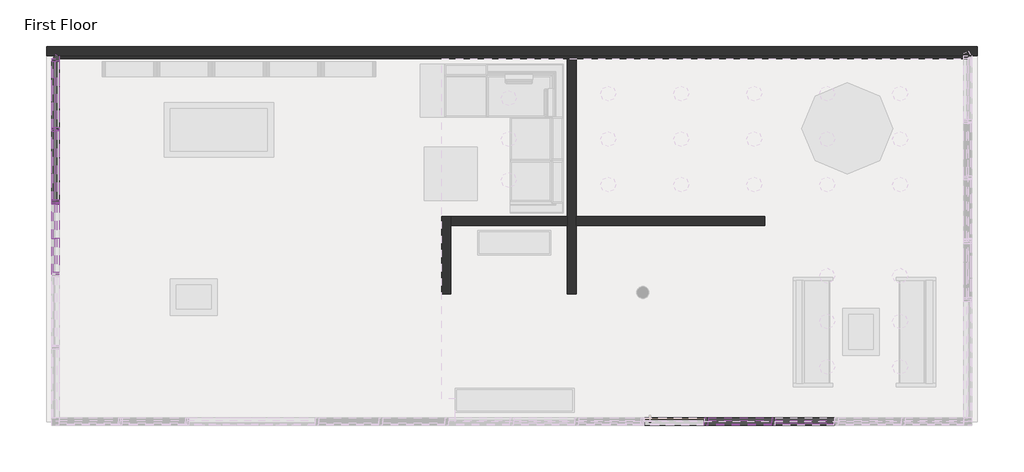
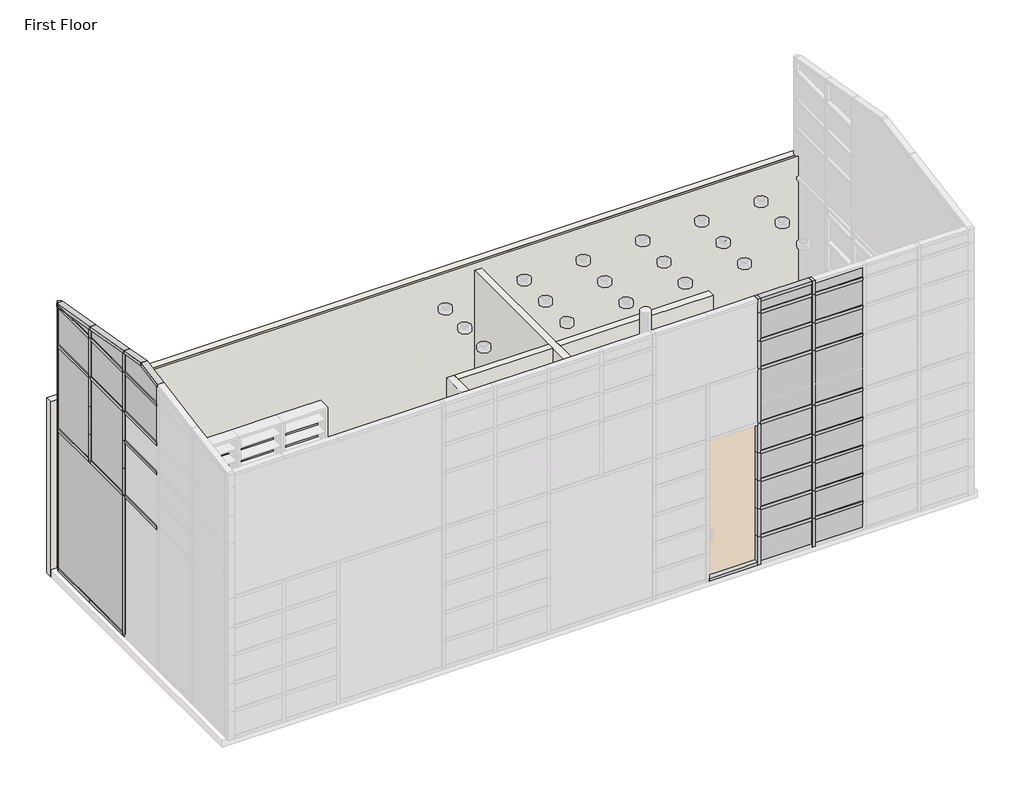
# One storey, part 3 of 5: 68 members, 27 plates, 6 walls.
"""IFC4 building model written with IfcOpenShell, lengths in millimetres."""

from ifc_helpers import new_model, si_unit, origin, origin_with_axes, place, context, project, spatial, polyline, outline, extrude, faceted_brep, transform, mapped, element, save
from components import member_48a55aaf, member_8fdd89c4, member_18bfbf2a, member_c4478095, member_a62d25e7, rectangular_mullion_rectangular_mullion_1_6e77e263, rectangular_mullion_rectangular_mullion_1_75d1e245, rectangular_mullion_rectangular_mullion_1_51170729, rectangular_mullion_rectangular_mullion_1_b3f2e294, rectangular_mullion_rectangular_mullion_1_650d2c5f, rectangular_mullion_rectangular_mullion_1_bb6e01eb, rectangular_mullion_rectangular_mullion_1_29433100, rectangular_mullion_rectangular_mullion_1_0dc72f1f, rectangular_mullion_rectangular_mullion_1_691106c5, rectangular_mullion_rectangular_mullion_1_10e992ee, rectangular_mullion_rectangular_mullion_1_b03e071e, rectangular_mullion_rectangular_mullion_1_7db1855a, rectangular_mullion_rectangular_mullion_1_13227b79, rectangular_mullion_rectangular_mullion_1_b8b32124, rectangular_mullion_rectangular_mullion_1_b5e65c95, rectangular_mullion_rectangular_mullion_1_8f8fed29, rectangular_mullion_rectangular_mullion_1_0f879c9f, rectangular_mullion_rectangular_mullion_1_6a1902be, rectangular_mullion_rectangular_mullion_1_d740f499, rectangular_mullion_rectangular_mullion_1_dd701887, rectangular_mullion_rectangular_mullion_1_58506ade, system_panel_glazed_2b7ce968, system_panel_glazed_7c8764a7, system_panel_glazed_1281ff27, system_panel_glazed_f91b51b3, system_panel_glazed_79ec670e, system_panel_glazed_17ceb642, system_panel_glazed_294cdc5a, system_panel_solid_grey_79d213d7, system_panel_solid_grey_1537fd35, system_panel_solid_grey_76bbd327, system_panel_solid_grey_9eb41032, system_panel_solid_grey_5948a24a, system_panel_solid_grey_b12ea01a, system_panel_solid_white_ea00ccfe, system_panel_solid_white_e6f20d80, system_panel_solid_white_33da1543, system_panel_solid_white_a08d68a6, system_panel_solid_white_88771e70, system_panel_solid_white_e904192f

model = new_model("IFC4")

# Units and contexts
model_context = context("Model", 3, world=origin())
ifc_project = project(units=[si_unit("LENGTHUNIT", "METRE", prefix="MILLI")], contexts=[model_context])

# Site, building, storey
site = spatial("IfcSite", under=ifc_project)
building = spatial("IfcBuilding", under=site)
storey = spatial("IfcBuildingStorey", under=building, Name="First Floor", Elevation=0.0)

# Members
placement = place(None, origin())
member_shape = member_48a55aaf(model_context)
element("IfcMember", 1, ObjectType="Quad Corner Mullion : 3\" x 1 1/2\" Quad Mullion", at=placement, inside=storey, context=model_context, shape_type="MappedRepresentation", body=[
    mapped(member_shape, transform((-10676.9717693, 12145.5400612, 0.0), x_axis=(0.0, 1.0, 0.0), y_axis=(1.0, 0.0, 0.0), z_axis=(0.0, 0.0, -1.0))),
])
member_2_shape = member_8fdd89c4(model_context)
element("IfcMember", 2, ObjectType="Quad Corner Mullion : 3\" x 1 1/2\" Quad Mullion", at=placement, inside=storey, context=model_context, shape_type="MappedRepresentation", body=[
    mapped(member_2_shape, transform((-10676.9717693, 12145.5400612, 4908.55), x_axis=(0.0, 1.0, 0.0), y_axis=(1.0, 0.0, 0.0), z_axis=(0.0, 0.0, -1.0))),
])
member_3_shape = member_18bfbf2a(model_context)
element("IfcMember", 3, ObjectType="Quad Corner Mullion : 3\" x 1 1/2\" Quad Mullion", at=placement, inside=storey, context=model_context, shape_type="MappedRepresentation", body=[
    mapped(member_3_shape, transform((-10676.9717693, 12145.5400612, 3079.75), x_axis=(0.0, 1.0, 0.0), y_axis=(1.0, 0.0, 0.0), z_axis=(0.0, 0.0, -1.0))),
])
member_4_shape = member_c4478095(model_context)
element("IfcMember", 4, ObjectType="Quad Corner Mullion : 3\" x 1 1/2\" Quad Mullion", at=placement, inside=storey, context=model_context, shape_type="MappedRepresentation", body=[
    mapped(member_4_shape, transform((-10676.9717693, 12145.5400612, 3657.6), x_axis=(0.0, 1.0, 0.0), y_axis=(1.0, 0.0, 0.0), z_axis=(0.0, 0.0, -1.0))),
])
member_5_shape = member_a62d25e7(model_context)
element("IfcMember", 5, ObjectType="Quad Corner Mullion : 3\" x 1 1/2\" Quad Mullion", at=placement, inside=storey, context=model_context, shape_type="MappedRepresentation", body=[
    mapped(member_5_shape, transform((-10676.9717693, 12145.5400612, 4267.2), x_axis=(0.0, 1.0, 0.0), y_axis=(1.0, 0.0, 0.0), z_axis=(0.0, 0.0, -1.0))),
])
rectangular_mullion_rectangular_mullion_1_shape = rectangular_mullion_rectangular_mullion_1_6e77e263(model_context)
element("IfcMember", 6, ObjectType="Rectangular Mullion : Rectangular Mullion 1", at=placement, inside=storey, context=model_context, shape_type="MappedRepresentation", body=[
    mapped(rectangular_mullion_rectangular_mullion_1_shape, transform((195.1353734, 6074.9400612, 0.0), x_axis=(-1.0, 0.0, 0.0), y_axis=(0.0, 1.0, 0.0), z_axis=(0.0, 0.0, -1.0))),
])
element("IfcMember", 7, ObjectType="Rectangular Mullion : Rectangular Mullion 1", at=placement, inside=storey, context=model_context, shape_type="MappedRepresentation", body=[
    mapped(rectangular_mullion_rectangular_mullion_1_shape, transform((1315.4568021, 6074.9400612, 0.0), x_axis=(-1.0, 0.0, 0.0), y_axis=(0.0, 1.0, 0.0), z_axis=(0.0, 0.0, -1.0))),
])
element("IfcMember", 8, ObjectType="Rectangular Mullion : Rectangular Mullion 1", at=placement, inside=storey, context=model_context, shape_type="MappedRepresentation", body=[
    mapped(rectangular_mullion_rectangular_mullion_1_shape, transform((1315.4568021, 6074.9400612, 1219.2), x_axis=(-1.0, 0.0, 0.0), y_axis=(0.0, 1.0, 0.0), z_axis=(0.0, 0.0, -1.0))),
])
element("IfcMember", 9, ObjectType="Rectangular Mullion : Rectangular Mullion 1", at=placement, inside=storey, context=model_context, shape_type="MappedRepresentation", body=[
    mapped(rectangular_mullion_rectangular_mullion_1_shape, transform((195.1353734, 6074.9400612, 1219.2), x_axis=(-1.0, 0.0, 0.0), y_axis=(0.0, 1.0, 0.0), z_axis=(0.0, 0.0, -1.0))),
])
element("IfcMember", 10, ObjectType="Rectangular Mullion : Rectangular Mullion 1", at=placement, inside=storey, context=model_context, shape_type="MappedRepresentation", body=[
    mapped(rectangular_mullion_rectangular_mullion_1_shape, transform((1315.4568021, 6074.9400612, 1828.8), x_axis=(-1.0, 0.0, 0.0), y_axis=(0.0, 1.0, 0.0), z_axis=(0.0, 0.0, -1.0))),
])
element("IfcMember", 11, ObjectType="Rectangular Mullion : Rectangular Mullion 1", at=placement, inside=storey, context=model_context, shape_type="MappedRepresentation", body=[
    mapped(rectangular_mullion_rectangular_mullion_1_shape, transform((195.1353734, 6074.9400612, 1828.8), x_axis=(-1.0, 0.0, 0.0), y_axis=(0.0, 1.0, 0.0), z_axis=(0.0, 0.0, -1.0))),
])
element("IfcMember", 12, ObjectType="Rectangular Mullion : Rectangular Mullion 1", at=placement, inside=storey, context=model_context, shape_type="MappedRepresentation", body=[
    mapped(rectangular_mullion_rectangular_mullion_1_shape, transform((1315.4568021, 6074.9400612, 609.6), x_axis=(-1.0, 0.0, 0.0), y_axis=(0.0, 1.0, 0.0), z_axis=(0.0, 0.0, -1.0))),
])
element("IfcMember", 13, ObjectType="Rectangular Mullion : Rectangular Mullion 1", at=placement, inside=storey, context=model_context, shape_type="MappedRepresentation", body=[
    mapped(rectangular_mullion_rectangular_mullion_1_shape, transform((195.1353734, 6074.9400612, 609.6), x_axis=(-1.0, 0.0, 0.0), y_axis=(0.0, 1.0, 0.0), z_axis=(0.0, 0.0, -1.0))),
])
element("IfcMember", 14, ObjectType="Rectangular Mullion : Rectangular Mullion 1", at=placement, inside=storey, context=model_context, shape_type="MappedRepresentation", body=[
    mapped(rectangular_mullion_rectangular_mullion_1_shape, transform((1315.4568021, 6074.9400612, 4876.8), x_axis=(-1.0, 0.0, 0.0), y_axis=(0.0, 1.0, 0.0), z_axis=(0.0, 0.0, -1.0))),
])
element("IfcMember", 15, ObjectType="Rectangular Mullion : Rectangular Mullion 1", at=placement, inside=storey, context=model_context, shape_type="MappedRepresentation", body=[
    mapped(rectangular_mullion_rectangular_mullion_1_shape, transform((195.1353734, 6074.9400612, 4876.8), x_axis=(-1.0, 0.0, 0.0), y_axis=(0.0, 1.0, 0.0), z_axis=(0.0, 0.0, -1.0))),
])
element("IfcMember", 16, ObjectType="Rectangular Mullion : Rectangular Mullion 1", at=placement, inside=storey, context=model_context, shape_type="MappedRepresentation", body=[
    mapped(rectangular_mullion_rectangular_mullion_1_shape, transform((1315.4568021, 6074.9400612, 4267.2), x_axis=(-1.0, 0.0, 0.0), y_axis=(0.0, 1.0, 0.0), z_axis=(0.0, 0.0, -1.0))),
])
element("IfcMember", 17, ObjectType="Rectangular Mullion : Rectangular Mullion 1", at=placement, inside=storey, context=model_context, shape_type="MappedRepresentation", body=[
    mapped(rectangular_mullion_rectangular_mullion_1_shape, transform((195.1353734, 6074.9400612, 4267.2), x_axis=(-1.0, 0.0, 0.0), y_axis=(0.0, 1.0, 0.0), z_axis=(0.0, 0.0, -1.0))),
])
rectangular_mullion_rectangular_mullion_1_2_shape = rectangular_mullion_rectangular_mullion_1_75d1e245(model_context)
element("IfcMember", 18, ObjectType="Rectangular Mullion : Rectangular Mullion 1", at=placement, inside=storey, context=model_context, shape_type="MappedRepresentation", body=[
    mapped(rectangular_mullion_rectangular_mullion_1_2_shape, transform((1315.4568021, 6074.9400612, 5486.4), x_axis=(-1.0, 0.0, 0.0), y_axis=(0.0, 1.0, 0.0), z_axis=(0.0, 0.0, -1.0))),
])
element("IfcMember", 19, ObjectType="Rectangular Mullion : Rectangular Mullion 1", at=placement, inside=storey, context=model_context, shape_type="MappedRepresentation", body=[
    mapped(rectangular_mullion_rectangular_mullion_1_2_shape, transform((195.1353734, 6074.9400612, 5486.4), x_axis=(-1.0, 0.0, 0.0), y_axis=(0.0, 1.0, 0.0), z_axis=(0.0, 0.0, -1.0))),
])
rectangular_mullion_rectangular_mullion_1_3_shape = rectangular_mullion_rectangular_mullion_1_51170729(model_context)
element("IfcMember", 20, ObjectType="Rectangular Mullion : Rectangular Mullion 1", at=placement, inside=storey, context=model_context, shape_type="MappedRepresentation", body=[
    mapped(rectangular_mullion_rectangular_mullion_1_3_shape, transform((1315.4568021, 6074.9400612, 2438.4), x_axis=(-1.0, 0.0, 0.0), y_axis=(0.0, 1.0, 0.0), z_axis=(0.0, 0.0, -1.0))),
])
element("IfcMember", 21, ObjectType="Rectangular Mullion : Rectangular Mullion 1", at=placement, inside=storey, context=model_context, shape_type="MappedRepresentation", body=[
    mapped(rectangular_mullion_rectangular_mullion_1_3_shape, transform((195.1353734, 6074.9400612, 2438.4), x_axis=(-1.0, 0.0, 0.0), y_axis=(0.0, 1.0, 0.0), z_axis=(0.0, 0.0, -1.0))),
])
element("IfcMember", 22, ObjectType="Rectangular Mullion : Rectangular Mullion 1", at=placement, inside=storey, context=model_context, shape_type="MappedRepresentation", body=[
    mapped(rectangular_mullion_rectangular_mullion_1_3_shape, transform((-10676.9717693, 9749.0500611, 4267.2), x_axis=(0.0, 1.0, 0.0), y_axis=(1.0, 0.0, 0.0), z_axis=(0.0, 0.0, -1.0))),
])
rectangular_mullion_rectangular_mullion_1_4_shape = rectangular_mullion_rectangular_mullion_1_b3f2e294(model_context)
element("IfcMember", 23, ObjectType="Rectangular Mullion : Rectangular Mullion 1", at=placement, inside=storey, context=model_context, shape_type="MappedRepresentation", body=[
    mapped(rectangular_mullion_rectangular_mullion_1_4_shape, transform((1315.4568021, 6074.9400612, 3079.75), x_axis=(-1.0, 0.0, 0.0), y_axis=(0.0, 1.0, 0.0), z_axis=(0.0, 0.0, -1.0))),
])
element("IfcMember", 24, ObjectType="Rectangular Mullion : Rectangular Mullion 1", at=placement, inside=storey, context=model_context, shape_type="MappedRepresentation", body=[
    mapped(rectangular_mullion_rectangular_mullion_1_4_shape, transform((195.1353734, 6074.9400612, 3079.75), x_axis=(-1.0, 0.0, 0.0), y_axis=(0.0, 1.0, 0.0), z_axis=(0.0, 0.0, -1.0))),
])
rectangular_mullion_rectangular_mullion_1_5_shape = rectangular_mullion_rectangular_mullion_1_650d2c5f(model_context)
element("IfcMember", 25, ObjectType="Rectangular Mullion : Rectangular Mullion 1", at=placement, inside=storey, context=model_context, shape_type="MappedRepresentation", body=[
    mapped(rectangular_mullion_rectangular_mullion_1_5_shape, transform((1347.2068021, 6074.9400612, 3079.75), x_axis=(0.0, 0.0, 1.0), y_axis=(0.0, 1.0, 0.0), z_axis=(-1.0, 0.0, 0.0))),
])
element("IfcMember", 26, ObjectType="Rectangular Mullion : Rectangular Mullion 1", at=placement, inside=storey, context=model_context, shape_type="MappedRepresentation", body=[
    mapped(rectangular_mullion_rectangular_mullion_1_5_shape, transform((1347.2068021, 6074.9400612, 2438.4), x_axis=(0.0, 0.0, 1.0), y_axis=(0.0, 1.0, 0.0), z_axis=(-1.0, 0.0, 0.0))),
])
element("IfcMember", 27, ObjectType="Rectangular Mullion : Rectangular Mullion 1", at=placement, inside=storey, context=model_context, shape_type="MappedRepresentation", body=[
    mapped(rectangular_mullion_rectangular_mullion_1_5_shape, transform((1347.2068021, 6074.9400612, 1219.2), x_axis=(0.0, 0.0, 1.0), y_axis=(0.0, 1.0, 0.0), z_axis=(-1.0, 0.0, 0.0))),
])
element("IfcMember", 28, ObjectType="Rectangular Mullion : Rectangular Mullion 1", at=placement, inside=storey, context=model_context, shape_type="MappedRepresentation", body=[
    mapped(rectangular_mullion_rectangular_mullion_1_5_shape, transform((1347.2068021, 6074.9400612, 1828.8), x_axis=(0.0, 0.0, 1.0), y_axis=(0.0, 1.0, 0.0), z_axis=(-1.0, 0.0, 0.0))),
])
element("IfcMember", 29, ObjectType="Rectangular Mullion : Rectangular Mullion 1", at=placement, inside=storey, context=model_context, shape_type="MappedRepresentation", body=[
    mapped(rectangular_mullion_rectangular_mullion_1_5_shape, transform((1347.2068021, 6074.9400612, 609.6), x_axis=(0.0, 0.0, 1.0), y_axis=(0.0, 1.0, 0.0), z_axis=(-1.0, 0.0, 0.0))),
])
element("IfcMember", 30, ObjectType="Rectangular Mullion : Rectangular Mullion 1", at=placement, inside=storey, context=model_context, shape_type="MappedRepresentation", body=[
    mapped(rectangular_mullion_rectangular_mullion_1_5_shape, transform((1347.2068021, 6074.9400612, 4876.8), x_axis=(0.0, 0.0, 1.0), y_axis=(0.0, 1.0, 0.0), z_axis=(-1.0, 0.0, 0.0))),
])
element("IfcMember", 31, ObjectType="Rectangular Mullion : Rectangular Mullion 1", at=placement, inside=storey, context=model_context, shape_type="MappedRepresentation", body=[
    mapped(rectangular_mullion_rectangular_mullion_1_5_shape, transform((1347.2068021, 6074.9400612, 5486.4), x_axis=(0.0, 0.0, 1.0), y_axis=(0.0, 1.0, 0.0), z_axis=(-1.0, 0.0, 0.0))),
])
element("IfcMember", 32, ObjectType="Rectangular Mullion : Rectangular Mullion 1", at=placement, inside=storey, context=model_context, shape_type="MappedRepresentation", body=[
    mapped(rectangular_mullion_rectangular_mullion_1_5_shape, transform((1347.2068021, 6074.9400612, 4267.2), x_axis=(0.0, 0.0, 1.0), y_axis=(0.0, 1.0, 0.0), z_axis=(-1.0, 0.0, 0.0))),
])
rectangular_mullion_rectangular_mullion_1_6_shape = rectangular_mullion_rectangular_mullion_1_bb6e01eb(model_context)
element("IfcMember", 33, ObjectType="Rectangular Mullion : Rectangular Mullion 1", at=placement, inside=storey, context=model_context, shape_type="MappedRepresentation", body=[
    mapped(rectangular_mullion_rectangular_mullion_1_6_shape, transform((226.8853734, 6074.9400612, 3079.75), x_axis=(0.0, 0.0, 1.0), y_axis=(0.0, 1.0, 0.0), z_axis=(-1.0, 0.0, 0.0))),
])
element("IfcMember", 34, ObjectType="Rectangular Mullion : Rectangular Mullion 1", at=placement, inside=storey, context=model_context, shape_type="MappedRepresentation", body=[
    mapped(rectangular_mullion_rectangular_mullion_1_6_shape, transform((226.8853734, 6074.9400612, 2438.4), x_axis=(0.0, 0.0, 1.0), y_axis=(0.0, 1.0, 0.0), z_axis=(-1.0, 0.0, 0.0))),
])
element("IfcMember", 35, ObjectType="Rectangular Mullion : Rectangular Mullion 1", at=placement, inside=storey, context=model_context, shape_type="MappedRepresentation", body=[
    mapped(rectangular_mullion_rectangular_mullion_1_6_shape, transform((226.8853734, 6074.9400612, 1219.2), x_axis=(0.0, 0.0, 1.0), y_axis=(0.0, 1.0, 0.0), z_axis=(-1.0, 0.0, 0.0))),
])
element("IfcMember", 36, ObjectType="Rectangular Mullion : Rectangular Mullion 1", at=placement, inside=storey, context=model_context, shape_type="MappedRepresentation", body=[
    mapped(rectangular_mullion_rectangular_mullion_1_6_shape, transform((226.8853734, 6074.9400612, 1828.8), x_axis=(0.0, 0.0, 1.0), y_axis=(0.0, 1.0, 0.0), z_axis=(-1.0, 0.0, 0.0))),
])
element("IfcMember", 37, ObjectType="Rectangular Mullion : Rectangular Mullion 1", at=placement, inside=storey, context=model_context, shape_type="MappedRepresentation", body=[
    mapped(rectangular_mullion_rectangular_mullion_1_6_shape, transform((226.8853734, 6074.9400612, 609.6), x_axis=(0.0, 0.0, 1.0), y_axis=(0.0, 1.0, 0.0), z_axis=(-1.0, 0.0, 0.0))),
])
element("IfcMember", 38, ObjectType="Rectangular Mullion : Rectangular Mullion 1", at=placement, inside=storey, context=model_context, shape_type="MappedRepresentation", body=[
    mapped(rectangular_mullion_rectangular_mullion_1_6_shape, transform((226.8853734, 6074.9400612, 4876.8), x_axis=(0.0, 0.0, 1.0), y_axis=(0.0, 1.0, 0.0), z_axis=(-1.0, 0.0, 0.0))),
])
element("IfcMember", 39, ObjectType="Rectangular Mullion : Rectangular Mullion 1", at=placement, inside=storey, context=model_context, shape_type="MappedRepresentation", body=[
    mapped(rectangular_mullion_rectangular_mullion_1_6_shape, transform((226.8853734, 6074.9400612, 5486.4), x_axis=(0.0, 0.0, 1.0), y_axis=(0.0, 1.0, 0.0), z_axis=(-1.0, 0.0, 0.0))),
])
element("IfcMember", 40, ObjectType="Rectangular Mullion : Rectangular Mullion 1", at=placement, inside=storey, context=model_context, shape_type="MappedRepresentation", body=[
    mapped(rectangular_mullion_rectangular_mullion_1_6_shape, transform((226.8853734, 6074.9400612, 4267.2), x_axis=(0.0, 0.0, 1.0), y_axis=(0.0, 1.0, 0.0), z_axis=(-1.0, 0.0, 0.0))),
])
rectangular_mullion_rectangular_mullion_1_7_shape = rectangular_mullion_rectangular_mullion_1_29433100(model_context)
element("IfcMember", 41, ObjectType="Rectangular Mullion : Rectangular Mullion 1", at=placement, inside=storey, context=model_context, shape_type="MappedRepresentation", body=[
    mapped(rectangular_mullion_rectangular_mullion_1_7_shape, transform((163.3853734, 6074.9400612, 0.0), x_axis=(0.0, 0.0, -1.0), y_axis=(0.0, 1.0, 0.0), z_axis=(1.0, 0.0, 0.0))),
])
rectangular_mullion_rectangular_mullion_1_8_shape = rectangular_mullion_rectangular_mullion_1_0dc72f1f(model_context)
element("IfcMember", 42, ObjectType="Rectangular Mullion : Rectangular Mullion 1", at=placement, inside=storey, context=model_context, shape_type="MappedRepresentation", body=[
    mapped(rectangular_mullion_rectangular_mullion_1_8_shape, transform((226.8853734, 6074.9400612, 5791.2), x_axis=(0.0, 0.0, 1.0), y_axis=(0.0, 1.0, 0.0), z_axis=(-1.0, 0.0, 0.0))),
])
rectangular_mullion_rectangular_mullion_1_9_shape = rectangular_mullion_rectangular_mullion_1_691106c5(model_context)
element("IfcMember", 43, ObjectType="Rectangular Mullion : Rectangular Mullion 1", at=placement, inside=storey, context=model_context, shape_type="MappedRepresentation", body=[
    mapped(rectangular_mullion_rectangular_mullion_1_9_shape, transform((-10676.9717693, 9717.3000611, 3079.75), x_axis=(0.0, 0.0, 1.0), y_axis=(1.0, 0.0, 0.0), z_axis=(0.0, 1.0, 0.0))),
])
element("IfcMember", 44, ObjectType="Rectangular Mullion : Rectangular Mullion 1", at=placement, inside=storey, context=model_context, shape_type="MappedRepresentation", body=[
    mapped(rectangular_mullion_rectangular_mullion_1_9_shape, transform((-10676.9717693, 10931.420061, 3079.75), x_axis=(0.0, 0.0, 1.0), y_axis=(1.0, 0.0, 0.0), z_axis=(0.0, 1.0, 0.0))),
])
element("IfcMember", 45, ObjectType="Rectangular Mullion : Rectangular Mullion 1", at=placement, inside=storey, context=model_context, shape_type="MappedRepresentation", body=[
    mapped(rectangular_mullion_rectangular_mullion_1_9_shape, transform((-10676.9717693, 9717.3000611, 4267.2), x_axis=(0.0, 0.0, 1.0), y_axis=(1.0, 0.0, 0.0), z_axis=(0.0, 1.0, 0.0))),
])
element("IfcMember", 46, ObjectType="Rectangular Mullion : Rectangular Mullion 1", at=placement, inside=storey, context=model_context, shape_type="MappedRepresentation", body=[
    mapped(rectangular_mullion_rectangular_mullion_1_9_shape, transform((-10676.9717693, 9717.3000611, 4908.55), x_axis=(0.0, 0.0, 1.0), y_axis=(1.0, 0.0, 0.0), z_axis=(0.0, 1.0, 0.0))),
])
element("IfcMember", 47, ObjectType="Rectangular Mullion : Rectangular Mullion 1", at=placement, inside=storey, context=model_context, shape_type="MappedRepresentation", body=[
    mapped(rectangular_mullion_rectangular_mullion_1_9_shape, transform((-10676.9717693, 10931.420061, 4908.55), x_axis=(0.0, 0.0, 1.0), y_axis=(1.0, 0.0, 0.0), z_axis=(0.0, 1.0, 0.0))),
])
element("IfcMember", 48, ObjectType="Rectangular Mullion : Rectangular Mullion 1", at=placement, inside=storey, context=model_context, shape_type="MappedRepresentation", body=[
    mapped(rectangular_mullion_rectangular_mullion_1_9_shape, transform((-10676.9717693, 9717.3000611, 5759.45), x_axis=(0.0, 0.0, 1.0), y_axis=(1.0, 0.0, 0.0), z_axis=(0.0, 1.0, 0.0))),
])
element("IfcMember", 49, ObjectType="Rectangular Mullion : Rectangular Mullion 1", at=placement, inside=storey, context=model_context, shape_type="MappedRepresentation", body=[
    mapped(rectangular_mullion_rectangular_mullion_1_9_shape, transform((-10676.9717693, 10931.420061, 5759.45), x_axis=(0.0, 0.0, 1.0), y_axis=(1.0, 0.0, 0.0), z_axis=(0.0, 1.0, 0.0))),
])
rectangular_mullion_rectangular_mullion_1_10_shape = rectangular_mullion_rectangular_mullion_1_10e992ee(model_context)
element("IfcMember", 50, ObjectType="Rectangular Mullion : Rectangular Mullion 1", at=placement, inside=storey, context=model_context, shape_type="MappedRepresentation", body=[
    mapped(rectangular_mullion_rectangular_mullion_1_10_shape, transform((-10676.9717693, 12104.7671801, 3079.75), x_axis=(0.0, 0.0, 1.0), y_axis=(1.0, 0.0, 0.0), z_axis=(0.0, 1.0, 0.0))),
])
element("IfcMember", 51, ObjectType="Rectangular Mullion : Rectangular Mullion 1", at=placement, inside=storey, context=model_context, shape_type="MappedRepresentation", body=[
    mapped(rectangular_mullion_rectangular_mullion_1_10_shape, transform((-10676.9717693, 12104.7671801, 4908.55), x_axis=(0.0, 0.0, 1.0), y_axis=(1.0, 0.0, 0.0), z_axis=(0.0, 1.0, 0.0))),
])
element("IfcMember", 52, ObjectType="Rectangular Mullion : Rectangular Mullion 1", at=placement, inside=storey, context=model_context, shape_type="MappedRepresentation", body=[
    mapped(rectangular_mullion_rectangular_mullion_1_10_shape, transform((-10676.9717693, 12104.7671801, 5759.45), x_axis=(0.0, 0.0, 1.0), y_axis=(1.0, 0.0, 0.0), z_axis=(0.0, 1.0, 0.0))),
])
rectangular_mullion_rectangular_mullion_1_11_shape = rectangular_mullion_rectangular_mullion_1_b03e071e(model_context)
element("IfcMember", 53, ObjectType="Rectangular Mullion : Rectangular Mullion 1", at=placement, inside=storey, context=model_context, shape_type="MappedRepresentation", body=[
    mapped(rectangular_mullion_rectangular_mullion_1_11_shape, transform((-10676.9717693, 9749.0500611, 0.0), x_axis=(0.0, 1.0, 0.0), y_axis=(1.0, 0.0, 0.0), z_axis=(0.0, 0.0, -1.0))),
])
rectangular_mullion_rectangular_mullion_1_12_shape = rectangular_mullion_rectangular_mullion_1_7db1855a(model_context)
element("IfcMember", 54, ObjectType="Rectangular Mullion : Rectangular Mullion 1", at=placement, inside=storey, context=model_context, shape_type="MappedRepresentation", body=[
    mapped(rectangular_mullion_rectangular_mullion_1_12_shape, transform((-10676.9717693, 9749.0500611, 4908.55), x_axis=(0.0, 1.0, 0.0), y_axis=(1.0, 0.0, 0.0), z_axis=(0.0, 0.0, -1.0))),
])
element("IfcMember", 55, ObjectType="Rectangular Mullion : Rectangular Mullion 1", at=placement, inside=storey, context=model_context, shape_type="MappedRepresentation", body=[
    mapped(rectangular_mullion_rectangular_mullion_1_12_shape, transform((-10676.9717693, 10963.170061, 4908.55), x_axis=(0.0, 1.0, 0.0), y_axis=(1.0, 0.0, 0.0), z_axis=(0.0, 0.0, -1.0))),
])
rectangular_mullion_rectangular_mullion_1_13_shape = rectangular_mullion_rectangular_mullion_1_13227b79(model_context)
element("IfcMember", 56, ObjectType="Rectangular Mullion : Rectangular Mullion 1", at=placement, inside=storey, context=model_context, shape_type="MappedRepresentation", body=[
    mapped(rectangular_mullion_rectangular_mullion_1_13_shape, transform((-10676.9717693, 9780.8000611, 0.0), x_axis=(0.0, 0.0, -1.0), y_axis=(1.0, 0.0, 0.0), z_axis=(0.0, -1.0, 0.0))),
])
rectangular_mullion_rectangular_mullion_1_14_shape = rectangular_mullion_rectangular_mullion_1_b8b32124(model_context)
element("IfcMember", 57, ObjectType="Rectangular Mullion : Rectangular Mullion 1", at=placement, inside=storey, context=model_context, shape_type="MappedRepresentation", body=[
    mapped(rectangular_mullion_rectangular_mullion_1_14_shape, transform((-10676.9717693, 10963.170061, 0.0), x_axis=(0.0, 0.0, -1.0), y_axis=(1.0, 0.0, 0.0), z_axis=(0.0, -1.0, 0.0))),
])
element("IfcMember", 58, ObjectType="Rectangular Mullion : Rectangular Mullion 1", at=placement, inside=storey, context=model_context, shape_type="MappedRepresentation", body=[
    mapped(rectangular_mullion_rectangular_mullion_1_shape, transform((-10676.9717693, 10963.170061, 3048.0), x_axis=(0.0, 1.0, 0.0), y_axis=(1.0, 0.0, 0.0), z_axis=(0.0, 0.0, -1.0))),
])
element("IfcMember", 59, ObjectType="Rectangular Mullion : Rectangular Mullion 1", at=placement, inside=storey, context=model_context, shape_type="MappedRepresentation", body=[
    mapped(rectangular_mullion_rectangular_mullion_1_shape, transform((-10676.9717693, 9749.0500611, 3657.6), x_axis=(0.0, 1.0, 0.0), y_axis=(1.0, 0.0, 0.0), z_axis=(0.0, 0.0, -1.0))),
])
rectangular_mullion_rectangular_mullion_1_15_shape = rectangular_mullion_rectangular_mullion_1_b5e65c95(model_context)
element("IfcMember", 60, ObjectType="Rectangular Mullion : Rectangular Mullion 1", at=placement, inside=storey, context=model_context, shape_type="MappedRepresentation", body=[
    mapped(rectangular_mullion_rectangular_mullion_1_15_shape, transform((-10676.9717693, 9749.0500611, 3079.75), x_axis=(0.0, 1.0, 0.0), y_axis=(1.0, 0.0, 0.0), z_axis=(0.0, 0.0, -1.0))),
])
element("IfcMember", 61, ObjectType="Rectangular Mullion : Rectangular Mullion 1", at=placement, inside=storey, context=model_context, shape_type="MappedRepresentation", body=[
    mapped(rectangular_mullion_rectangular_mullion_1_shape, transform((-10676.9717693, 10963.170061, 3657.6), x_axis=(0.0, 1.0, 0.0), y_axis=(1.0, 0.0, 0.0), z_axis=(0.0, 0.0, -1.0))),
])
element("IfcMember", 62, ObjectType="Rectangular Mullion : Rectangular Mullion 1", at=placement, inside=storey, context=model_context, shape_type="MappedRepresentation", body=[
    mapped(rectangular_mullion_rectangular_mullion_1_3_shape, transform((-10676.9717693, 10963.170061, 4267.2), x_axis=(0.0, 1.0, 0.0), y_axis=(1.0, 0.0, 0.0), z_axis=(0.0, 0.0, -1.0))),
])
rectangular_mullion_rectangular_mullion_1_16_shape = rectangular_mullion_rectangular_mullion_1_8f8fed29(model_context)
element("IfcMember", 63, ObjectType="Rectangular Mullion : Rectangular Mullion 1", at=placement, inside=storey, context=model_context, shape_type="MappedRepresentation", body=[
    mapped(rectangular_mullion_rectangular_mullion_1_16_shape, transform((-10676.9717693, 12145.5400612, 5800.1574106), x_axis=(0.0, 0.1736481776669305, 0.984807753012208), y_axis=(1.0, 0.0, 0.0), z_axis=(0.0, 0.984807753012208, -0.1736481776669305))),
])
rectangular_mullion_rectangular_mullion_1_17_shape = rectangular_mullion_rectangular_mullion_1_0f879c9f(model_context)
element("IfcMember", 64, ObjectType="Rectangular Mullion : Rectangular Mullion 1", at=placement, inside=storey, context=model_context, shape_type="MappedRepresentation", body=[
    mapped(rectangular_mullion_rectangular_mullion_1_17_shape, transform((-10676.9717693, 9135.6400612, 6330.8839899), x_axis=(0.0, -0.17364817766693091, 0.984807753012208), y_axis=(1.0, 0.0, 0.0), z_axis=(0.0, 0.9848077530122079, 0.1736481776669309))),
])
rectangular_mullion_rectangular_mullion_1_18_shape = rectangular_mullion_rectangular_mullion_1_6a1902be(model_context)
element("IfcMember", 65, ObjectType="Rectangular Mullion : Rectangular Mullion 1", at=placement, inside=storey, context=model_context, shape_type="MappedRepresentation", body=[
    mapped(rectangular_mullion_rectangular_mullion_1_18_shape, transform((-10676.9717693, 9749.0500611, 6222.7232566), x_axis=(0.0, 0.1736481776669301, 0.9848077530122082), y_axis=(1.0, 0.0, 0.0), z_axis=(0.0, 0.9848077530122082, -0.1736481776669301))),
])
rectangular_mullion_rectangular_mullion_1_19_shape = rectangular_mullion_rectangular_mullion_1_d740f499(model_context)
element("IfcMember", 66, ObjectType="Rectangular Mullion : Rectangular Mullion 1", at=placement, inside=storey, context=model_context, shape_type="MappedRepresentation", body=[
    mapped(rectangular_mullion_rectangular_mullion_1_19_shape, transform((-10676.9717693, 10963.170061, 6008.6411428), x_axis=(0.0, 0.17364817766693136, 0.9848077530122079), y_axis=(1.0, 0.0, 0.0), z_axis=(0.0, 0.9848077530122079, -0.17364817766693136))),
])
rectangular_mullion_rectangular_mullion_1_20_shape = rectangular_mullion_rectangular_mullion_1_dd701887(model_context)
element("IfcMember", 67, ObjectType="Rectangular Mullion : Rectangular Mullion 1", at=placement, inside=storey, context=model_context, shape_type="MappedRepresentation", body=[
    mapped(rectangular_mullion_rectangular_mullion_1_20_shape, transform((-10676.9717693, 9749.0500611, 5759.45), x_axis=(0.0, 1.0, 0.0), y_axis=(1.0, 0.0, 0.0), z_axis=(0.0, 0.0, -1.0))),
])
rectangular_mullion_rectangular_mullion_1_21_shape = rectangular_mullion_rectangular_mullion_1_58506ade(model_context)
element("IfcMember", 68, ObjectType="Rectangular Mullion : Rectangular Mullion 1", at=placement, inside=storey, context=model_context, shape_type="MappedRepresentation", body=[
    mapped(rectangular_mullion_rectangular_mullion_1_21_shape, transform((-10676.9717693, 10963.170061, 5759.45), x_axis=(0.0, 1.0, 0.0), y_axis=(1.0, 0.0, 0.0), z_axis=(0.0, 0.0, -1.0))),
])

# Plates
system_panel_glazed_shape = system_panel_glazed_2b7ce968(model_context)
element("IfcPlate", 69, ObjectType="System Panel : Glazed", at=placement, inside=storey, context=model_context, shape_type="MappedRepresentation", body=[
    mapped(system_panel_glazed_shape, transform((1839.331802, 6074.9400612, 2470.15), x_axis=(-1.0, 0.0, 0.0), y_axis=(0.0, -1.0, 0.0), z_axis=(0.0, 0.0, 1.0))),
])
system_panel_glazed_2_shape = system_panel_glazed_7c8764a7(model_context)
element("IfcPlate", 70, ObjectType="System Panel : Glazed", at=placement, inside=storey, context=model_context, shape_type="MappedRepresentation", body=[
    mapped(system_panel_glazed_2_shape, transform((1839.331802, 6074.9400612, 1250.95), x_axis=(-1.0, 0.0, 0.0), y_axis=(0.0, -1.0, 0.0), z_axis=(0.0, 0.0, 1.0))),
])
element("IfcPlate", 71, ObjectType="System Panel : Glazed", at=placement, inside=storey, context=model_context, shape_type="MappedRepresentation", body=[
    mapped(system_panel_glazed_2_shape, transform((1839.331802, 6074.9400612, 1860.55), x_axis=(-1.0, 0.0, 0.0), y_axis=(0.0, -1.0, 0.0), z_axis=(0.0, 0.0, 1.0))),
])
element("IfcPlate", 72, ObjectType="System Panel : Glazed", at=placement, inside=storey, context=model_context, shape_type="MappedRepresentation", body=[
    mapped(system_panel_glazed_2_shape, transform((1839.331802, 6074.9400612, 641.35), x_axis=(-1.0, 0.0, 0.0), y_axis=(0.0, -1.0, 0.0), z_axis=(0.0, 0.0, 1.0))),
])
system_panel_glazed_3_shape = system_panel_glazed_1281ff27(model_context)
element("IfcPlate", 73, ObjectType="System Panel : Glazed", at=placement, inside=storey, context=model_context, shape_type="MappedRepresentation", body=[
    mapped(system_panel_glazed_3_shape, transform((1839.331802, 6074.9400612, 5518.15), x_axis=(-1.0, 0.0, 0.0), y_axis=(0.0, -1.0, 0.0), z_axis=(0.0, 0.0, 1.0))),
])
system_panel_glazed_4_shape = system_panel_glazed_f91b51b3(model_context)
element("IfcPlate", 74, ObjectType="System Panel : Glazed", at=placement, inside=storey, context=model_context, shape_type="MappedRepresentation", body=[
    mapped(system_panel_glazed_4_shape, transform((-10676.9717693, 9141.9900612, 4940.3), x_axis=(0.0, 1.0, 0.0), y_axis=(-1.0, 0.0, 0.0), z_axis=(0.0, 0.0, 1.0))),
])
element("IfcPlate", 75, ObjectType="System Panel : Glazed", at=placement, inside=storey, context=model_context, shape_type="MappedRepresentation", body=[
    mapped(system_panel_glazed_4_shape, transform((-10676.9717693, 10356.1100611, 4940.3), x_axis=(0.0, 1.0, 0.0), y_axis=(-1.0, 0.0, 0.0), z_axis=(0.0, 0.0, 1.0))),
])
system_panel_glazed_5_shape = system_panel_glazed_79ec670e(model_context)
element("IfcPlate", 76, ObjectType="System Panel : Glazed", at=placement, inside=storey, context=model_context, shape_type="MappedRepresentation", body=[
    mapped(system_panel_glazed_5_shape, transform((-10676.9717693, 11549.8436205, 4940.3), x_axis=(0.0, 1.0, 0.0), y_axis=(-1.0, 0.0, 0.0), z_axis=(0.0, 0.0, 1.0))),
])
system_panel_glazed_6_shape = system_panel_glazed_17ceb642(model_context)
element("IfcPlate", 77, ObjectType="System Panel : Glazed", at=placement, inside=storey, context=model_context, shape_type="MappedRepresentation", body=[
    mapped(system_panel_glazed_6_shape, transform((-10676.9717693, 10356.1100611, 3111.5), x_axis=(0.0, 1.0, 0.0), y_axis=(-1.0, 0.0, 0.0), z_axis=(0.0, 0.0, 1.0))),
])
system_panel_glazed_7_shape = system_panel_glazed_294cdc5a(model_context)
element("IfcPlate", 78, ObjectType="System Panel : Glazed", at=placement, inside=storey, context=model_context, shape_type="MappedRepresentation", body=[
    mapped(system_panel_glazed_7_shape, transform((-10676.9717693, 11549.8436205, 3111.5), x_axis=(0.0, 1.0, 0.0), y_axis=(-1.0, 0.0, 0.0), z_axis=(0.0, 0.0, 1.0))),
])
system_panel_solid_grey_shape = system_panel_solid_grey_79d213d7(model_context)
element("IfcPlate", 79, ObjectType="System Panel : Solid - Grey", at=placement, inside=storey, context=model_context, shape_type="MappedRepresentation", body=[
    mapped(system_panel_solid_grey_shape, transform((1839.331802, 6074.9400612, 4908.55), x_axis=(-1.0, 0.0, 0.0), y_axis=(0.0, -1.0, 0.0), z_axis=(0.0, 0.0, 1.0))),
])
element("IfcPlate", 80, ObjectType="System Panel : Solid - Grey", at=placement, inside=storey, context=model_context, shape_type="MappedRepresentation", body=[
    mapped(system_panel_solid_grey_shape, transform((1839.331802, 6074.9400612, 4298.95), x_axis=(-1.0, 0.0, 0.0), y_axis=(0.0, -1.0, 0.0), z_axis=(0.0, 0.0, 1.0))),
])
system_panel_solid_grey_2_shape = system_panel_solid_grey_1537fd35(model_context)
element("IfcPlate", 81, ObjectType="System Panel : Solid - Grey", at=placement, inside=storey, context=model_context, shape_type="MappedRepresentation", body=[
    mapped(system_panel_solid_grey_2_shape, transform((755.2960878, 6074.9400612, 1250.95), x_axis=(-1.0, 0.0, 0.0), y_axis=(0.0, -1.0, 0.0), z_axis=(0.0, 0.0, 1.0))),
])
element("IfcPlate", 82, ObjectType="System Panel : Solid - Grey", at=placement, inside=storey, context=model_context, shape_type="MappedRepresentation", body=[
    mapped(system_panel_solid_grey_2_shape, transform((755.2960878, 6074.9400612, 1860.55), x_axis=(-1.0, 0.0, 0.0), y_axis=(0.0, -1.0, 0.0), z_axis=(0.0, 0.0, 1.0))),
])
element("IfcPlate", 83, ObjectType="System Panel : Solid - Grey", at=placement, inside=storey, context=model_context, shape_type="MappedRepresentation", body=[
    mapped(system_panel_solid_grey_2_shape, transform((755.2960878, 6074.9400612, 641.35), x_axis=(-1.0, 0.0, 0.0), y_axis=(0.0, -1.0, 0.0), z_axis=(0.0, 0.0, 1.0))),
])
element("IfcPlate", 84, ObjectType="System Panel : Solid - Grey", at=placement, inside=storey, context=model_context, shape_type="MappedRepresentation", body=[
    mapped(system_panel_solid_grey_2_shape, transform((755.2960878, 6074.9400612, 4908.55), x_axis=(-1.0, 0.0, 0.0), y_axis=(0.0, -1.0, 0.0), z_axis=(0.0, 0.0, 1.0))),
])
element("IfcPlate", 85, ObjectType="System Panel : Solid - Grey", at=placement, inside=storey, context=model_context, shape_type="MappedRepresentation", body=[
    mapped(system_panel_solid_grey_2_shape, transform((755.2960878, 6074.9400612, 4298.95), x_axis=(-1.0, 0.0, 0.0), y_axis=(0.0, -1.0, 0.0), z_axis=(0.0, 0.0, 1.0))),
])
system_panel_solid_grey_3_shape = system_panel_solid_grey_76bbd327(model_context)
element("IfcPlate", 86, ObjectType="System Panel : Solid - Grey", at=placement, inside=storey, context=model_context, shape_type="MappedRepresentation", body=[
    mapped(system_panel_solid_grey_3_shape, transform((755.2960878, 6074.9400612, 2470.15), x_axis=(-1.0, 0.0, 0.0), y_axis=(0.0, -1.0, 0.0), z_axis=(0.0, 0.0, 1.0))),
])
system_panel_solid_grey_4_shape = system_panel_solid_grey_9eb41032(model_context)
element("IfcPlate", 87, ObjectType="System Panel : Solid - Grey", at=placement, inside=storey, context=model_context, shape_type="MappedRepresentation", body=[
    mapped(system_panel_solid_grey_4_shape, transform((755.2960878, 6074.9400612, 63.5), x_axis=(-1.0, 0.0, 0.0), y_axis=(0.0, -1.0, 0.0), z_axis=(0.0, 0.0, 1.0))),
])
system_panel_solid_grey_5_shape = system_panel_solid_grey_5948a24a(model_context)
element("IfcPlate", 88, ObjectType="System Panel : Solid - Grey", at=placement, inside=storey, context=model_context, shape_type="MappedRepresentation", body=[
    mapped(system_panel_solid_grey_5_shape, transform((1839.331802, 6074.9400612, 63.5), x_axis=(-1.0, 0.0, 0.0), y_axis=(0.0, -1.0, 0.0), z_axis=(0.0, 0.0, 1.0))),
])
system_panel_solid_grey_6_shape = system_panel_solid_grey_b12ea01a(model_context)
element("IfcPlate", 89, ObjectType="System Panel : Solid - Grey", at=placement, inside=storey, context=model_context, shape_type="MappedRepresentation", body=[
    mapped(system_panel_solid_grey_6_shape, transform((755.2960878, 6074.9400612, 5518.15), x_axis=(-1.0, 0.0, 0.0), y_axis=(0.0, -1.0, 0.0), z_axis=(0.0, 0.0, 1.0))),
])
system_panel_solid_white_shape = system_panel_solid_white_ea00ccfe(model_context)
element("IfcPlate", 90, ObjectType="System Panel : Solid - White", at=placement, inside=storey, context=model_context, shape_type="MappedRepresentation", body=[
    mapped(system_panel_solid_white_shape, transform((1839.331802, 6074.9400612, 3111.5), x_axis=(-1.0, 0.0, 0.0), y_axis=(0.0, -1.0, 0.0), z_axis=(0.0, 0.0, 1.0))),
])
system_panel_solid_white_2_shape = system_panel_solid_white_e6f20d80(model_context)
element("IfcPlate", 91, ObjectType="System Panel : Solid - White", at=placement, inside=storey, context=model_context, shape_type="MappedRepresentation", body=[
    mapped(system_panel_solid_white_2_shape, transform((755.2960878, 6074.9400612, 3111.5), x_axis=(-1.0, 0.0, 0.0), y_axis=(0.0, -1.0, 0.0), z_axis=(0.0, 0.0, 1.0))),
])
system_panel_solid_white_3_shape = system_panel_solid_white_33da1543(model_context)
element("IfcPlate", 92, ObjectType="System Panel : Solid - White", at=placement, inside=storey, context=model_context, shape_type="MappedRepresentation", body=[
    mapped(system_panel_solid_white_3_shape, transform((-10676.9717693, 10942.7836206, 63.5), x_axis=(0.0, 1.0, 0.0), y_axis=(-1.0, 0.0, 0.0), z_axis=(0.0, 0.0, 1.0))),
])
system_panel_solid_white_4_shape = system_panel_solid_white_a08d68a6(model_context)
element("IfcPlate", 93, ObjectType="System Panel : Solid - White", at=placement, inside=storey, context=model_context, shape_type="MappedRepresentation", body=[
    mapped(system_panel_solid_white_4_shape, transform((-10676.9717693, 11412.7890982, 5791.2), x_axis=(0.0, 1.0, 0.0), y_axis=(-1.0, 0.0, 0.0), z_axis=(0.0, 0.0, 1.0))),
])
system_panel_solid_white_5_shape = system_panel_solid_white_88771e70(model_context)
element("IfcPlate", 94, ObjectType="System Panel : Solid - White", at=placement, inside=storey, context=model_context, shape_type="MappedRepresentation", body=[
    mapped(system_panel_solid_white_5_shape, transform((-10676.9717693, 10356.1100611, 5791.2), x_axis=(0.0, 1.0, 0.0), y_axis=(-1.0, 0.0, 0.0), z_axis=(0.0, 0.0, 1.0))),
])
system_panel_solid_white_6_shape = system_panel_solid_white_e904192f(model_context)
element("IfcPlate", 95, ObjectType="System Panel : Solid - White", at=placement, inside=storey, context=model_context, shape_type="MappedRepresentation", body=[
    mapped(system_panel_solid_white_6_shape, transform((-10676.9717693, 9141.9900612, 5791.2), x_axis=(0.0, 1.0, 0.0), y_axis=(-1.0, 0.0, 0.0), z_axis=(0.0, 0.0, 1.0))),
])

# Walls
element("IfcWall", 96, ObjectType="Generic Wall - 6\"", at=placement, inside=storey, context=model_context, shape_type="Brep", body=[
    faceted_brep([(-10829.3717693, 12196.3400612, -152.4), (4724.4914365, 12196.3400612, -152.4), (4724.4914365, 12196.3400612, 3657.6), (4499.5282307, 12196.3400612, 3657.6), (-4226.2789122, 12196.3400612, 3657.6), (-10829.3717693, 12196.3400612, 3657.6), (-10829.3717693, 12348.7400612, -152.4), (-10829.3717693, 12348.7400612, 3657.6), (4724.4914365, 12348.7400612, 3657.6), (4724.4914365, 12348.7400612, -152.4)], [[[0, 1, 2, 3, 4, 5]], [[6, 7, 8, 9]], [[1, 0, 6, 9]], [[2, 1, 9, 8]], [[5, 4, 3, 2, 8, 7]], [[0, 5, 7, 6]]]),
])
element("IfcWall", 97, ObjectType="Generic Wall - 6\"", at=placement, inside=storey, context=model_context, shape_type="Brep", body=[
    faceted_brep([(-1978.5118337, 9351.5400612, 0.0), (1171.0881663, 9351.5400612, 0.0), (1171.0881663, 9351.5400612, 3505.2), (-861.1244845, 9351.5400612, 3505.2), (-1978.5118337, 9351.5400612, 3505.2), (-1978.5118337, 9503.9400612, 0.0), (-1978.5118337, 9503.9400612, 3505.2), (1171.0881663, 9503.9400612, 3505.2), (1171.0881663, 9503.9400612, 0.0)], [[[0, 1, 2, 3, 4]], [[5, 6, 7, 8]], [[1, 0, 5, 8]], [[2, 1, 8, 7]], [[0, 4, 6, 5]], [[4, 3, 2, 7, 6]]]),
])
element("IfcWall", 98, ObjectType="Generic Wall - 6\"", at=placement, inside=storey, context=model_context, shape_type="Brep", body=[
    faceted_brep([(-2130.9118337, 12145.5400612, 0.0), (-2130.9118337, 9503.9400612, 0.0), (-2130.9118337, 9351.5400612, 0.0), (-2130.9118337, 8208.5400612, 0.0), (-2130.9118337, 8208.5400612, 3505.2), (-2130.9118337, 9351.5400612, 3505.2), (-2130.9118337, 9503.9400612, 3505.2), (-2130.9118337, 12145.5400612, 3505.2), (-1978.5118337, 12145.5400612, 0.0), (-1978.5118337, 12145.5400612, 3505.2), (-1978.5118337, 9503.9400612, 3505.2), (-1978.5118337, 9351.5400612, 3505.2), (-1978.5118337, 8208.5400612, 3505.2), (-1978.5118337, 8208.5400612, 0.0), (-1978.5118337, 9351.5400612, 0.0), (-1978.5118337, 9503.9400612, 0.0)], [[[0, 1, 2, 3, 4, 5, 6, 7]], [[8, 9, 10, 11, 12, 13, 14, 15]], [[3, 2, 1, 0, 8, 15, 14, 13]], [[4, 3, 13, 12]], [[7, 6, 5, 4, 12, 11, 10, 9]], [[0, 7, 9, 8]]]),
])
element("IfcWall", 99, ObjectType="Generic Wall - 6\" Wood", at=placement, inside=storey, context=model_context, shape_type="SweptSolid", body=[
    extrude(outline(polyline([(-4073.8789122, 9503.9400612), (-2130.9118337, 9503.9400612), (-2130.9118337, 9351.5400612), (-4073.8789122, 9351.5400612), (-4073.8789122, 9503.9400612)])), origin_with_axes(), (0.0, 0.0, 1.0), 3505.2),
])
element("IfcWall", 100, ObjectType="Generic Wall - 6\" Wood", at=placement, inside=storey, context=model_context, shape_type="Brep", body=[
    faceted_brep([(-4073.8789122, 8208.5400612, 0.0), (-4073.8789122, 9351.5400612, 0.0), (-4073.8789122, 9503.9400612, 0.0), (-4073.8789122, 9503.9400612, 3505.2), (-4073.8789122, 9351.5400612, 3505.2), (-4073.8789122, 8208.5400612, 3505.2), (-4226.2789122, 8208.5400612, 0.0), (-4226.2789122, 8208.5400612, 3505.2), (-4226.2789122, 9503.9400612, 3505.2), (-4226.2789122, 9503.9400612, 0.0)], [[[0, 1, 2, 3, 4, 5]], [[6, 7, 8, 9]], [[2, 1, 0, 6, 9]], [[0, 5, 7, 6]], [[5, 4, 3, 8, 7]], [[3, 2, 9, 8]]]),
])
element("IfcWall", 101, ObjectType="Interior Wall - 2\"", at=placement, inside=storey, context=model_context, shape_type="Brep", body=[
    faceted_brep([(-10676.9717693, 12145.5400612, 0.0), (-2130.9118337, 12145.5400612, 0.0), (-1978.5118337, 12145.5400612, 0.0), (4563.0282307, 12145.5400612, 0.0), (4563.0282307, 12145.5400612, 3657.6), (-10676.9717693, 12145.5400612, 3657.6), (-10676.9717693, 12196.3400612, 0.0), (-10676.9717693, 12196.3400612, 3657.6), (4563.0282307, 12196.3400612, 3657.6), (4563.0282307, 12196.3400612, 0.0)], [[[0, 1, 2, 3, 4, 5]], [[6, 7, 8, 9]], [[3, 2, 1, 0, 6, 9]], [[4, 3, 9, 8]], [[5, 4, 8, 7]], [[0, 5, 7, 6]]]),
])

save(model, "model.ifc")
